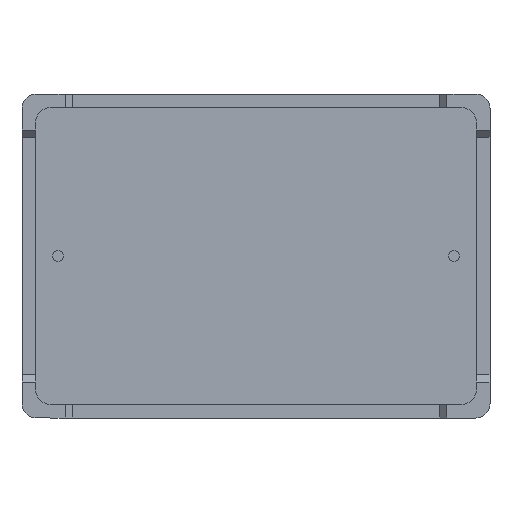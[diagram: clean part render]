
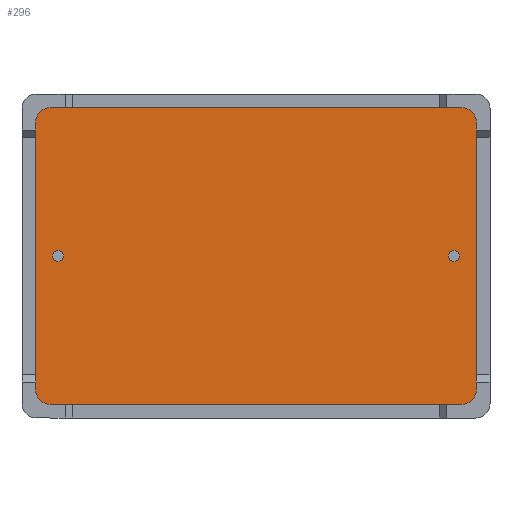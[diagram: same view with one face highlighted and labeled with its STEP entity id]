
A CAD part, front view. The second image highlights one B-rep face of the part: STEP entity #296.
In plain terms, the highlighted planar face has unit normal (0, -1, 0).
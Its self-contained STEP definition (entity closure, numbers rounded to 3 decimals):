
#9 = ORIENTED_EDGE ( 'NONE', *, *, #1865, .T. ) ;
#112 = CARTESIAN_POINT ( 'NONE',  ( -14.3, 1., -10.3 ) ) ;
#252 = CARTESIAN_POINT ( 'NONE',  ( 15.3, 1., -10.3 ) ) ;
#263 = ORIENTED_EDGE ( 'NONE', *, *, #3283, .T. ) ;
#296 = ADVANCED_FACE ( 'NONE', ( #971, #1188, #3513 ), #1387, .T. ) ;
#364 = DIRECTION ( 'NONE',  ( 0., -1., 0. ) ) ;
#367 = CIRCLE ( 'NONE', #547, 1. ) ;
#395 = DIRECTION ( 'NONE',  ( 0., -1., 0. ) ) ;
#404 = VECTOR ( 'NONE', #997, 1000. ) ;
#494 = CARTESIAN_POINT ( 'NONE',  ( 15.3, 1., 9.3 ) ) ;
#513 = VERTEX_POINT ( 'NONE', #1096 ) ;
#537 = LINE ( 'NONE', #2606, #404 ) ;
#547 = AXIS2_PLACEMENT_3D ( 'NONE', #2426, #395, #2737 ) ;
#746 = CARTESIAN_POINT ( 'NONE',  ( 13.75, 1., 0. ) ) ;
#782 = DIRECTION ( 'NONE',  ( 0., -1., 0. ) ) ;
#939 = ORIENTED_EDGE ( 'NONE', *, *, #3245, .F. ) ;
#971 = FACE_BOUND ( 'NONE', #1916, .T. ) ;
#975 = CARTESIAN_POINT ( 'NONE',  ( -15.3, 1., -9.3 ) ) ;
#997 = DIRECTION ( 'NONE',  ( -1., 0., 0. ) ) ;
#1042 = VECTOR ( 'NONE', #2935, 1000. ) ;
#1096 = CARTESIAN_POINT ( 'NONE',  ( 14.3, 1., -10.3 ) ) ;
#1100 = DIRECTION ( 'NONE',  ( 0., 0., -1. ) ) ;
#1106 = VERTEX_POINT ( 'NONE', #494 ) ;
#1115 = EDGE_LOOP ( 'NONE', ( #1849 ) ) ;
#1116 = CARTESIAN_POINT ( 'NONE',  ( 14.3, 1., -9.3 ) ) ;
#1188 = FACE_BOUND ( 'NONE', #1115, .T. ) ;
#1283 = DIRECTION ( 'NONE',  ( 0., 0., -1. ) ) ;
#1295 = DIRECTION ( 'NONE',  ( 0., -1., 0. ) ) ;
#1326 = CARTESIAN_POINT ( 'NONE',  ( 0., 1., 0. ) ) ;
#1330 = EDGE_LOOP ( 'NONE', ( #3481, #9, #1941, #2748, #3576, #2842, #3679, #263 ) ) ;
#1364 = VERTEX_POINT ( 'NONE', #112 ) ;
#1387 = PLANE ( 'NONE',  #2087 ) ;
#1415 = DIRECTION ( 'NONE',  ( 0., 0., -1. ) ) ;
#1424 = LINE ( 'NONE', #3921, #2260 ) ;
#1437 = AXIS2_PLACEMENT_3D ( 'NONE', #746, #3004, #1100 ) ;
#1463 = DIRECTION ( 'NONE',  ( 0., 0., -1. ) ) ;
#1483 = CARTESIAN_POINT ( 'NONE',  ( -14.3, 1., 9.3 ) ) ;
#1564 = CARTESIAN_POINT ( 'NONE',  ( 15.3, 1., -9.3 ) ) ;
#1640 = VERTEX_POINT ( 'NONE', #2512 ) ;
#1656 = VERTEX_POINT ( 'NONE', #975 ) ;
#1748 = VECTOR ( 'NONE', #3260, 1000. ) ;
#1826 = DIRECTION ( 'NONE',  ( 0., 0., -1. ) ) ;
#1849 = ORIENTED_EDGE ( 'NONE', *, *, #3258, .F. ) ;
#1865 = EDGE_CURVE ( 'NONE', #1656, #1364, #367, .T. ) ;
#1916 = EDGE_LOOP ( 'NONE', ( #939 ) ) ;
#1941 = ORIENTED_EDGE ( 'NONE', *, *, #3163, .T. ) ;
#2071 = CIRCLE ( 'NONE', #2696, 1. ) ;
#2075 = AXIS2_PLACEMENT_3D ( 'NONE', #2397, #364, #2715 ) ;
#2087 = AXIS2_PLACEMENT_3D ( 'NONE', #1326, #1295, #1283 ) ;
#2166 = CIRCLE ( 'NONE', #1437, 0.4 ) ;
#2230 = CARTESIAN_POINT ( 'NONE',  ( 14.3, 1., 10.3 ) ) ;
#2260 = VECTOR ( 'NONE', #1415, 1000. ) ;
#2397 = CARTESIAN_POINT ( 'NONE',  ( -13.75, 1., 0. ) ) ;
#2426 = CARTESIAN_POINT ( 'NONE',  ( -14.3, 1., -9.3 ) ) ;
#2495 = AXIS2_PLACEMENT_3D ( 'NONE', #1116, #3334, #1463 ) ;
#2512 = CARTESIAN_POINT ( 'NONE',  ( -13.75, 1., -0.4 ) ) ;
#2606 = CARTESIAN_POINT ( 'NONE',  ( 15.3, 1., 10.3 ) ) ;
#2692 = VERTEX_POINT ( 'NONE', #3774 ) ;
#2696 = AXIS2_PLACEMENT_3D ( 'NONE', #1483, #3668, #1826 ) ;
#2715 = DIRECTION ( 'NONE',  ( 0., 0., -1. ) ) ;
#2727 = CARTESIAN_POINT ( 'NONE',  ( 14.3, 1., 9.3 ) ) ;
#2737 = DIRECTION ( 'NONE',  ( 0., 0., -1. ) ) ;
#2748 = ORIENTED_EDGE ( 'NONE', *, *, #3265, .T. ) ;
#2842 = ORIENTED_EDGE ( 'NONE', *, *, #3281, .T. ) ;
#2891 = CIRCLE ( 'NONE', #2495, 1. ) ;
#2901 = AXIS2_PLACEMENT_3D ( 'NONE', #2727, #782, #3030 ) ;
#2935 = DIRECTION ( 'NONE',  ( 0., 0., 1. ) ) ;
#2942 = LINE ( 'NONE', #252, #1042 ) ;
#2949 = CARTESIAN_POINT ( 'NONE',  ( -15.3, 1., -10.3 ) ) ;
#3004 = DIRECTION ( 'NONE',  ( 0., -1., 0. ) ) ;
#3030 = DIRECTION ( 'NONE',  ( 0., 0., -1. ) ) ;
#3091 = EDGE_CURVE ( 'NONE', #3452, #2692, #537, .T. ) ;
#3129 = CARTESIAN_POINT ( 'NONE',  ( 13.75, 1., -0.4 ) ) ;
#3130 = VERTEX_POINT ( 'NONE', #4156 ) ;
#3132 = EDGE_CURVE ( 'NONE', #4028, #1106, #2942, .T. ) ;
#3163 = EDGE_CURVE ( 'NONE', #1364, #513, #4179, .T. ) ;
#3179 = VERTEX_POINT ( 'NONE', #3129 ) ;
#3216 = EDGE_CURVE ( 'NONE', #3130, #1656, #1424, .T. ) ;
#3245 = EDGE_CURVE ( 'NONE', #3179, #3179, #2166, .T. ) ;
#3258 = EDGE_CURVE ( 'NONE', #1640, #1640, #3736, .T. ) ;
#3260 = DIRECTION ( 'NONE',  ( 1., 0., 0. ) ) ;
#3265 = EDGE_CURVE ( 'NONE', #513, #4028, #2891, .T. ) ;
#3281 = EDGE_CURVE ( 'NONE', #1106, #3452, #3632, .T. ) ;
#3283 = EDGE_CURVE ( 'NONE', #2692, #3130, #2071, .T. ) ;
#3334 = DIRECTION ( 'NONE',  ( 0., -1., 0. ) ) ;
#3452 = VERTEX_POINT ( 'NONE', #2230 ) ;
#3481 = ORIENTED_EDGE ( 'NONE', *, *, #3216, .T. ) ;
#3513 = FACE_OUTER_BOUND ( 'NONE', #1330, .T. ) ;
#3576 = ORIENTED_EDGE ( 'NONE', *, *, #3132, .T. ) ;
#3632 = CIRCLE ( 'NONE', #2901, 1. ) ;
#3668 = DIRECTION ( 'NONE',  ( 0., -1., 0. ) ) ;
#3679 = ORIENTED_EDGE ( 'NONE', *, *, #3091, .T. ) ;
#3736 = CIRCLE ( 'NONE', #2075, 0.4 ) ;
#3774 = CARTESIAN_POINT ( 'NONE',  ( -14.3, 1., 10.3 ) ) ;
#3921 = CARTESIAN_POINT ( 'NONE',  ( -15.3, 1., 10.3 ) ) ;
#4028 = VERTEX_POINT ( 'NONE', #1564 ) ;
#4156 = CARTESIAN_POINT ( 'NONE',  ( -15.3, 1., 9.3 ) ) ;
#4179 = LINE ( 'NONE', #2949, #1748 ) ;
